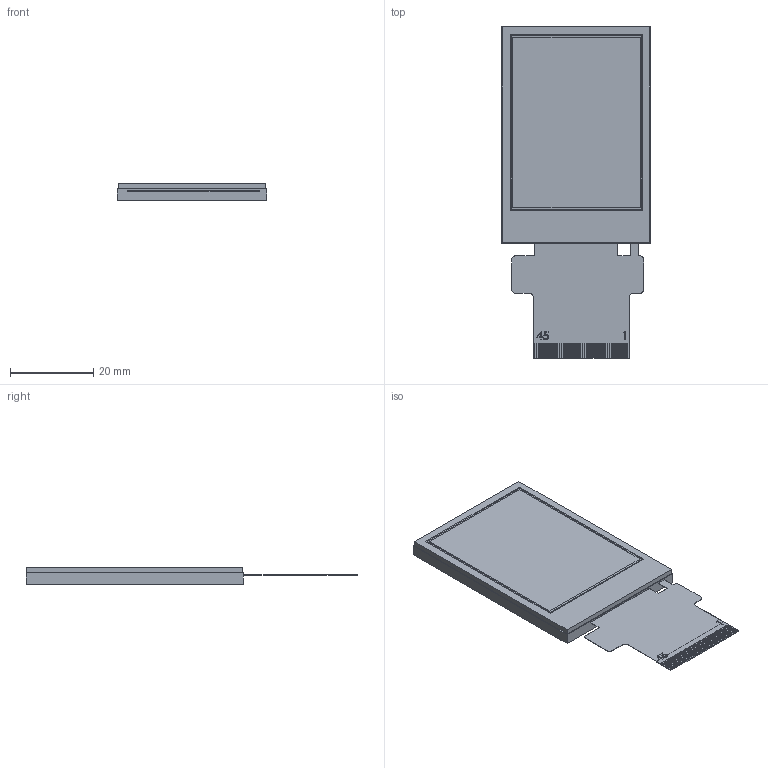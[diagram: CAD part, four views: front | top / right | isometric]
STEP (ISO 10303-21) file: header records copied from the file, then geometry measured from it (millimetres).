
FILE_DESCRIPTION (( 'STEP AP214' ), '1' );
FILE_NAME ('CFAF240320D0-020FR.STEP', '2023-06-15T21:04:37', ( '' ), ( '' ), 'SwSTEP 2.0', 'SolidWorks 2021', '' );
FILE_SCHEMA (( 'AUTOMOTIVE_DESIGN' ));
Length unit declared in the file: millimetre
Products named in the file (1): CFAF240320D0-020FR
Bounding box: 35.8 x 79.6 x 3.85 mm (x, y, z)
Volume: 7232.1 mm3; surface area: 9503 mm2
Topology: 2 solids, 2 shells, 260 faces, 763 edges, 518 vertices
Faces by surface type: plane 246, bspline 8, cylinder 6
Entity records: 9014 total; most frequent: CARTESIAN_POINT 2062, ORIENTED_EDGE 1526, DIRECTION 1265, EDGE_CURVE 763, VECTOR 735, LINE 735, VERTEX_POINT 518, EDGE_LOOP 273
